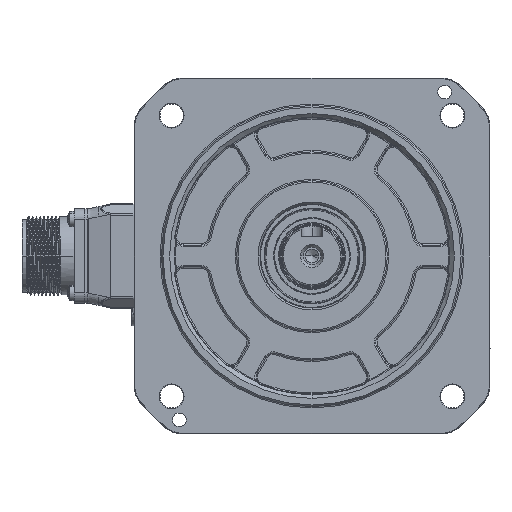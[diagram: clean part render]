
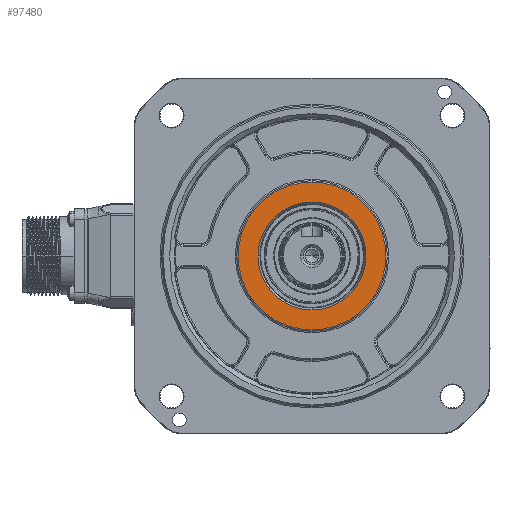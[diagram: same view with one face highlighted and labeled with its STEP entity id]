
A CAD part, left-side view. The second image highlights one B-rep face of the part: STEP entity #97480.
In plain terms, the highlighted planar face has unit normal (-1, 0, 0).
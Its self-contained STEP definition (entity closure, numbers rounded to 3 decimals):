
#596 = ORIENTED_EDGE ( 'NONE', *, *, #43468, .F. ) ;
#2310 = DIRECTION ( 'NONE',  ( 1., 0., 0. ) ) ;
#2561 = AXIS2_PLACEMENT_3D ( 'NONE', #15562, #118049, #19193 ) ;
#3038 = EDGE_LOOP ( 'NONE', ( #596, #11397 ) ) ;
#11397 = ORIENTED_EDGE ( 'NONE', *, *, #14818, .F. ) ;
#12738 = DIRECTION ( 'NONE',  ( -1., 0., 0. ) ) ;
#14818 = EDGE_CURVE ( 'NONE', #83518, #106695, #22052, .T. ) ;
#15562 = CARTESIAN_POINT ( 'NONE',  ( 0.8, 0., 0. ) ) ;
#19193 = DIRECTION ( 'NONE',  ( 0., 0., -1. ) ) ;
#20110 = DIRECTION ( 'NONE',  ( 0., 0., -1. ) ) ;
#20728 = CARTESIAN_POINT ( 'NONE',  ( 0.8, 0., 0. ) ) ;
#22052 = CIRCLE ( 'NONE', #92597, 19.693 ) ;
#22166 = CARTESIAN_POINT ( 'NONE',  ( 0.8, 0., 0. ) ) ;
#30761 = DIRECTION ( 'NONE',  ( -1., 0., 0. ) ) ;
#36288 = ORIENTED_EDGE ( 'NONE', *, *, #65840, .T. ) ;
#40018 = DIRECTION ( 'NONE',  ( -1., 0., 0. ) ) ;
#43468 = EDGE_CURVE ( 'NONE', #106695, #83518, #111199, .T. ) ;
#44736 = VERTEX_POINT ( 'NONE', #83028 ) ;
#45332 = CARTESIAN_POINT ( 'NONE',  ( 0.8, 0., 19.693 ) ) ;
#47086 = CIRCLE ( 'NONE', #115677, 27. ) ;
#47664 = CIRCLE ( 'NONE', #2561, 27. ) ;
#48569 = CARTESIAN_POINT ( 'NONE',  ( 0.8, 0., 0. ) ) ;
#49752 = DIRECTION ( 'NONE',  ( 0., 0., -1. ) ) ;
#53114 = EDGE_CURVE ( 'NONE', #44736, #82321, #47086, .T. ) ;
#58150 = PLANE ( 'NONE',  #76427 ) ;
#58738 = FACE_BOUND ( 'NONE', #3038, .T. ) ;
#60216 = DIRECTION ( 'NONE',  ( 0., 0., -1. ) ) ;
#65840 = EDGE_CURVE ( 'NONE', #82321, #44736, #47664, .T. ) ;
#67973 = FACE_OUTER_BOUND ( 'NONE', #105084, .T. ) ;
#69083 = ORIENTED_EDGE ( 'NONE', *, *, #53114, .T. ) ;
#76427 = AXIS2_PLACEMENT_3D ( 'NONE', #77784, #2310, #76573 ) ;
#76573 = DIRECTION ( 'NONE',  ( 0., 0., -1. ) ) ;
#77784 = CARTESIAN_POINT ( 'NONE',  ( 0.8, 27.5, 0. ) ) ;
#82321 = VERTEX_POINT ( 'NONE', #87708 ) ;
#83028 = CARTESIAN_POINT ( 'NONE',  ( 0.8, 0., 27. ) ) ;
#83518 = VERTEX_POINT ( 'NONE', #117166 ) ;
#85722 = AXIS2_PLACEMENT_3D ( 'NONE', #22166, #40018, #60216 ) ;
#87708 = CARTESIAN_POINT ( 'NONE',  ( 0.8, 0., -27. ) ) ;
#92597 = AXIS2_PLACEMENT_3D ( 'NONE', #48569, #30761, #49752 ) ;
#97480 = ADVANCED_FACE ( 'NONE', ( #58738, #67973 ), #58150, .F. ) ;
#105084 = EDGE_LOOP ( 'NONE', ( #36288, #69083 ) ) ;
#106695 = VERTEX_POINT ( 'NONE', #45332 ) ;
#111199 = CIRCLE ( 'NONE', #85722, 19.693 ) ;
#115677 = AXIS2_PLACEMENT_3D ( 'NONE', #20728, #12738, #20110 ) ;
#117166 = CARTESIAN_POINT ( 'NONE',  ( 0.8, 0., -19.693 ) ) ;
#118049 = DIRECTION ( 'NONE',  ( -1., 0., 0. ) ) ;
